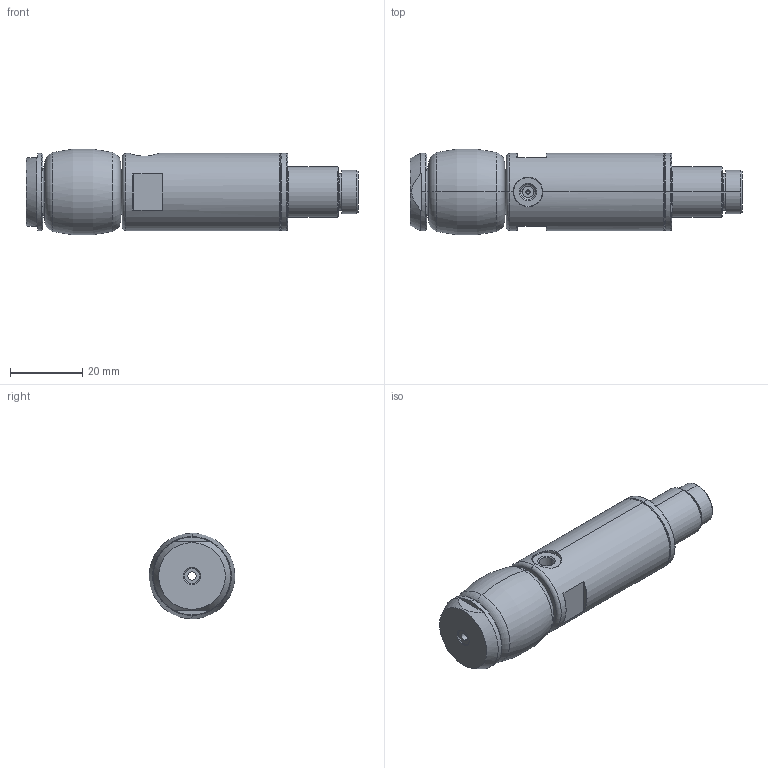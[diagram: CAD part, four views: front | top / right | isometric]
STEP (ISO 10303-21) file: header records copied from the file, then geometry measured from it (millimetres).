
FILE_DESCRIPTION (( 'STEP AP214' ), '1' );
FILE_NAME ('GBD22HU.STEP', '2019-11-13T00:36:00', ( '微软用户' ), ( '微软中国' ), 'SwSTEP 2.0', 'SolidWorks 2016', '' );
FILE_SCHEMA (( 'AUTOMOTIVE_DESIGN' ));
Length unit declared in the file: millimetre
Products named in the file (1): GBD22HU
Bounding box: 92 x 23.69 x 23.76 mm (x, y, z)
Volume: 23458.1 mm3; surface area: 14768.5 mm2
Topology: 5 solids, 5 shells, 252 faces, 554 edges, 338 vertices
Faces by surface type: cylinder 70, bspline 63, plane 45, torus 42, cone 32
Entity records: 16134 total; most frequent: CARTESIAN_POINT 8096, ORIENTED_EDGE 1108, DIRECTION 992, EDGE_CURVE 554, AXIS2_PLACEMENT_3D 426, VERTEX_POINT 338, EDGE_LOOP 290, UNCERTAINTY_MEASURE_WITH_UNIT 259
